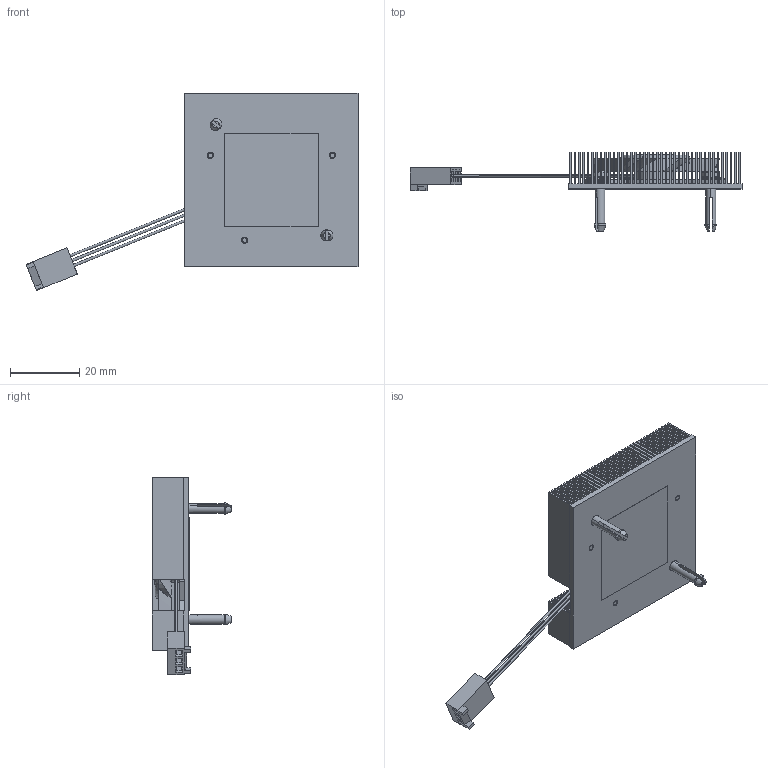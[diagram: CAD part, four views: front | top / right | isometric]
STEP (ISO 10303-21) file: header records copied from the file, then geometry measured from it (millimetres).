
FILE_DESCRIPTION (( 'STEP AP214' ), '1' );
FILE_NAME ('SC05S+B.STEP', '2023-03-02T23:14:40', ( '' ), ( '' ), 'SwSTEP 2.0', 'SolidWorks 2020', '' );
FILE_SCHEMA (( 'AUTOMOTIVE_DESIGN' ));
Length unit declared in the file: millimetre
Products named in the file (1): SC05S+B
Bounding box: 95.83 x 22.81 x 56.92 mm (x, y, z)
Volume: 9325.2 mm3; surface area: 24616.5 mm2
Topology: 45 solids, 45 shells, 1181 faces, 3136 edges, 2055 vertices
Faces by surface type: plane 760, bspline 212, cylinder 143, cone 64, torus 2
Entity records: 64128 total; most frequent: CARTESIAN_POINT 22986, ORIENTED_EDGE 6260, DIRECTION 4819, EDGE_CURVE 3130, LINE 2061, VECTOR 2061, VERTEX_POINT 2055, AXIS2_PLACEMENT_3D 1379
